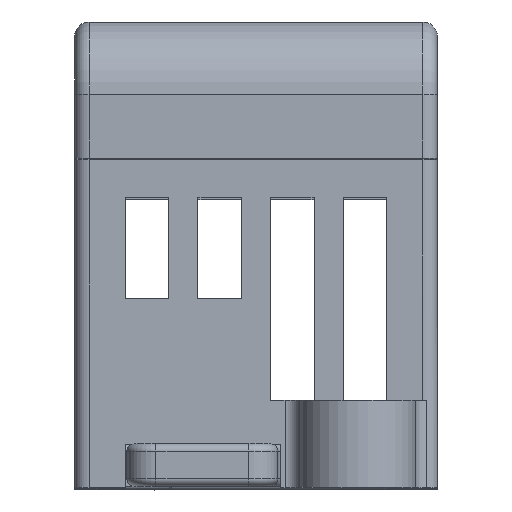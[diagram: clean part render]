
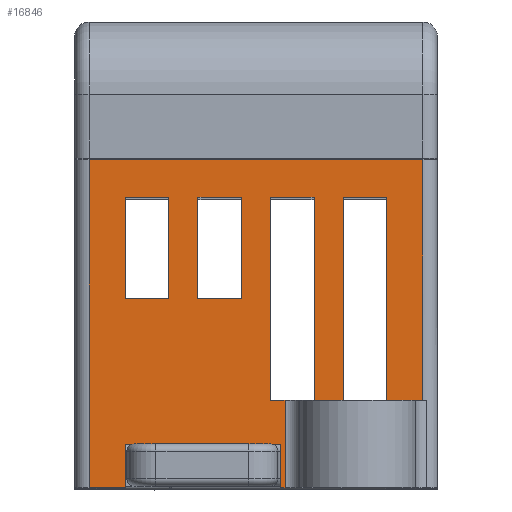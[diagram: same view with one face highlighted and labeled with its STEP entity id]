
A CAD part, top view. The second image highlights one B-rep face of the part: STEP entity #16846.
In plain terms, the highlighted planar face has unit normal (0, 0, 1).
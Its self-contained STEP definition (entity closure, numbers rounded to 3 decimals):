
#8365=DIRECTION('',(1.,0.,0.));
#8366=VECTOR('',#8365,2.5);
#8367=CARTESIAN_POINT('',(-11.5,0.,45.));
#8368=LINE('',#8367,#8366);
#8554=DIRECTION('',(0.,-1.,0.));
#8555=VECTOR('',#8554,14.);
#8556=CARTESIAN_POINT('',(1.,20.,45.));
#8557=LINE('',#8556,#8555);
#8561=DIRECTION('',(1.,0.,0.));
#8562=VECTOR('',#8561,1.);
#8563=CARTESIAN_POINT('',(1.,6.,45.));
#8564=LINE('',#8563,#8562);
#8568=DIRECTION('',(0.,-1.,0.));
#8569=VECTOR('',#8568,6.);
#8570=CARTESIAN_POINT('',(2.,6.,45.));
#8571=LINE('',#8570,#8569);
#8575=DIRECTION('',(-1.,0.,0.));
#8576=VECTOR('',#8575,0.3);
#8577=CARTESIAN_POINT('',(2.,0.,45.));
#8578=LINE('',#8577,#8576);
#8582=DIRECTION('',(1.,0.,0.));
#8583=VECTOR('',#8582,10.7);
#8584=CARTESIAN_POINT('',(-9.,3.,45.));
#8585=LINE('',#8584,#8583);
#8589=DIRECTION('',(0.,1.,0.));
#8590=VECTOR('',#8589,3.);
#8591=CARTESIAN_POINT('',(-9.,0.,45.));
#8592=LINE('',#8591,#8590);
#8596=DIRECTION('',(1.,0.,0.));
#8597=VECTOR('',#8596,23.);
#8598=CARTESIAN_POINT('',(-11.5,22.6,45.));
#8599=LINE('',#8598,#8597);
#8603=DIRECTION('',(0.,1.,0.));
#8604=VECTOR('',#8603,14.);
#8605=CARTESIAN_POINT('',(9.,6.,45.));
#8606=LINE('',#8605,#8604);
#8610=DIRECTION('',(-1.,0.,0.));
#8611=VECTOR('',#8610,3.);
#8612=CARTESIAN_POINT('',(9.,20.,45.));
#8613=LINE('',#8612,#8611);
#8617=DIRECTION('',(0.,-1.,0.));
#8618=VECTOR('',#8617,14.);
#8619=CARTESIAN_POINT('',(6.,20.,45.));
#8620=LINE('',#8619,#8618);
#8624=DIRECTION('',(0.,1.,0.));
#8625=VECTOR('',#8624,14.);
#8626=CARTESIAN_POINT('',(4.,6.,45.));
#8627=LINE('',#8626,#8625);
#8631=DIRECTION('',(-1.,0.,0.));
#8632=VECTOR('',#8631,3.);
#8633=CARTESIAN_POINT('',(4.,20.,45.));
#8634=LINE('',#8633,#8632);
#8638=DIRECTION('',(-1.,0.,0.));
#8639=VECTOR('',#8638,3.);
#8640=CARTESIAN_POINT('',(-1.,20.,45.));
#8641=LINE('',#8640,#8639);
#8645=DIRECTION('',(0.,-1.,0.));
#8646=VECTOR('',#8645,7.);
#8647=CARTESIAN_POINT('',(-4.,20.,45.));
#8648=LINE('',#8647,#8646);
#8652=DIRECTION('',(1.,0.,0.));
#8653=VECTOR('',#8652,3.);
#8654=CARTESIAN_POINT('',(-4.,13.,45.));
#8655=LINE('',#8654,#8653);
#8659=DIRECTION('',(0.,1.,0.));
#8660=VECTOR('',#8659,7.);
#8661=CARTESIAN_POINT('',(-1.,13.,45.));
#8662=LINE('',#8661,#8660);
#8666=DIRECTION('',(-1.,0.,0.));
#8667=VECTOR('',#8666,3.);
#8668=CARTESIAN_POINT('',(-6.,20.,45.));
#8669=LINE('',#8668,#8667);
#8673=DIRECTION('',(0.,-1.,0.));
#8674=VECTOR('',#8673,7.);
#8675=CARTESIAN_POINT('',(-9.,20.,45.));
#8676=LINE('',#8675,#8674);
#8680=DIRECTION('',(1.,0.,0.));
#8681=VECTOR('',#8680,3.);
#8682=CARTESIAN_POINT('',(-9.,13.,45.));
#8683=LINE('',#8682,#8681);
#8687=DIRECTION('',(0.,1.,0.));
#8688=VECTOR('',#8687,7.);
#8689=CARTESIAN_POINT('',(-6.,13.,45.));
#8690=LINE('',#8689,#8688);
#8811=DIRECTION('',(1.,0.,0.));
#8812=VECTOR('',#8811,2.);
#8813=CARTESIAN_POINT('',(4.,6.,45.));
#8814=LINE('',#8813,#8812);
#8825=DIRECTION('',(1.,0.,0.));
#8826=VECTOR('',#8825,2.5);
#8827=CARTESIAN_POINT('',(9.,6.,45.));
#8828=LINE('',#8827,#8826);
#13522=DIRECTION('',(0.,1.,0.));
#13523=VECTOR('',#13522,3.);
#13524=CARTESIAN_POINT('',(1.7,0.,45.));
#13525=LINE('',#13524,#13523);
#15041=DIRECTION('',(0.,-1.,0.));
#15042=VECTOR('',#15041,16.6);
#15043=CARTESIAN_POINT('',(11.5,22.6,45.));
#15044=LINE('',#15043,#15042);
#15318=DIRECTION('',(0.,-1.,0.));
#15319=VECTOR('',#15318,22.6);
#15320=CARTESIAN_POINT('',(-11.5,22.6,45.));
#15321=LINE('',#15320,#15319);
#15376=CARTESIAN_POINT('',(-11.5,0.,45.));
#15378=VERTEX_POINT('',#15376);
#15396=CARTESIAN_POINT('',(-9.,0.,45.));
#15397=VERTEX_POINT('',#15396);
#15668=CARTESIAN_POINT('',(-11.5,22.6,45.));
#15669=CARTESIAN_POINT('',(11.5,22.6,45.));
#15670=VERTEX_POINT('',#15668);
#15671=VERTEX_POINT('',#15669);
#16167=CARTESIAN_POINT('',(11.5,6.,45.));
#16168=VERTEX_POINT('',#16167);
#16171=CARTESIAN_POINT('',(2.,0.,45.));
#16172=VERTEX_POINT('',#16171);
#16177=CARTESIAN_POINT('',(1.7,0.,45.));
#16178=CARTESIAN_POINT('',(1.7,3.,45.));
#16179=VERTEX_POINT('',#16177);
#16180=VERTEX_POINT('',#16178);
#16181=CARTESIAN_POINT('',(-9.,3.,45.));
#16182=VERTEX_POINT('',#16181);
#16464=CARTESIAN_POINT('',(1.,20.,45.));
#16465=CARTESIAN_POINT('',(1.,6.,45.));
#16466=VERTEX_POINT('',#16464);
#16467=VERTEX_POINT('',#16465);
#16468=CARTESIAN_POINT('',(2.,6.,45.));
#16469=VERTEX_POINT('',#16468);
#16470=CARTESIAN_POINT('',(4.,6.,45.));
#16471=CARTESIAN_POINT('',(4.,20.,45.));
#16472=VERTEX_POINT('',#16470);
#16473=VERTEX_POINT('',#16471);
#16474=CARTESIAN_POINT('',(6.,20.,45.));
#16475=CARTESIAN_POINT('',(6.,6.,45.));
#16476=VERTEX_POINT('',#16474);
#16477=VERTEX_POINT('',#16475);
#16478=CARTESIAN_POINT('',(9.,6.,45.));
#16479=CARTESIAN_POINT('',(9.,20.,45.));
#16480=VERTEX_POINT('',#16478);
#16481=VERTEX_POINT('',#16479);
#16482=CARTESIAN_POINT('',(-1.,20.,45.));
#16483=CARTESIAN_POINT('',(-4.,20.,45.));
#16484=VERTEX_POINT('',#16482);
#16485=VERTEX_POINT('',#16483);
#16486=CARTESIAN_POINT('',(-4.,13.,45.));
#16487=VERTEX_POINT('',#16486);
#16488=CARTESIAN_POINT('',(-1.,13.,45.));
#16489=VERTEX_POINT('',#16488);
#16490=CARTESIAN_POINT('',(-6.,20.,45.));
#16491=CARTESIAN_POINT('',(-9.,20.,45.));
#16492=VERTEX_POINT('',#16490);
#16493=VERTEX_POINT('',#16491);
#16494=CARTESIAN_POINT('',(-9.,13.,45.));
#16495=VERTEX_POINT('',#16494);
#16496=CARTESIAN_POINT('',(-6.,13.,45.));
#16497=VERTEX_POINT('',#16496);
#16786=CARTESIAN_POINT('',(-12.5,0.,45.));
#16787=DIRECTION('',(0.,0.,1.));
#16788=DIRECTION('',(1.,0.,0.));
#16789=AXIS2_PLACEMENT_3D('',#16786,#16787,#16788);
#16790=PLANE('',#16789);
#16792=ORIENTED_EDGE('',*,*,#16791,.T.);
#16794=ORIENTED_EDGE('',*,*,#16793,.T.);
#16796=ORIENTED_EDGE('',*,*,#16795,.T.);
#16797=ORIENTED_EDGE('',*,*,#16703,.T.);
#16799=ORIENTED_EDGE('',*,*,#16798,.T.);
#16801=ORIENTED_EDGE('',*,*,#16800,.F.);
#16802=ORIENTED_EDGE('',*,*,#16775,.F.);
#16803=ORIENTED_EDGE('',*,*,#16617,.F.);
#16805=ORIENTED_EDGE('',*,*,#16804,.F.);
#16807=ORIENTED_EDGE('',*,*,#16806,.T.);
#16809=ORIENTED_EDGE('',*,*,#16808,.T.);
#16811=ORIENTED_EDGE('',*,*,#16810,.F.);
#16813=ORIENTED_EDGE('',*,*,#16812,.T.);
#16815=ORIENTED_EDGE('',*,*,#16814,.T.);
#16817=ORIENTED_EDGE('',*,*,#16816,.T.);
#16819=ORIENTED_EDGE('',*,*,#16818,.F.);
#16821=ORIENTED_EDGE('',*,*,#16820,.T.);
#16823=ORIENTED_EDGE('',*,*,#16822,.T.);
#16824=EDGE_LOOP('',(#16792,#16794,#16796,#16797,#16799,#16801,#16802,#16803,
#16805,#16807,#16809,#16811,#16813,#16815,#16817,#16819,#16821,#16823));
#16825=FACE_OUTER_BOUND('',#16824,.F.);
#16827=ORIENTED_EDGE('',*,*,#16826,.T.);
#16829=ORIENTED_EDGE('',*,*,#16828,.T.);
#16831=ORIENTED_EDGE('',*,*,#16830,.T.);
#16833=ORIENTED_EDGE('',*,*,#16832,.T.);
#16834=EDGE_LOOP('',(#16827,#16829,#16831,#16833));
#16835=FACE_BOUND('',#16834,.F.);
#16837=ORIENTED_EDGE('',*,*,#16836,.T.);
#16839=ORIENTED_EDGE('',*,*,#16838,.T.);
#16841=ORIENTED_EDGE('',*,*,#16840,.T.);
#16843=ORIENTED_EDGE('',*,*,#16842,.T.);
#16844=EDGE_LOOP('',(#16837,#16839,#16841,#16843));
#16845=FACE_BOUND('',#16844,.F.);
#16846=ADVANCED_FACE('',(#16825,#16835,#16845),#16790,.T.);
#16617=EDGE_CURVE('',#15378,#15397,#8368,.T.);
#16703=EDGE_CURVE('',#16172,#16179,#8578,.T.);
#16775=EDGE_CURVE('',#15397,#16182,#8592,.T.);
#16791=EDGE_CURVE('',#16466,#16467,#8557,.T.);
#16793=EDGE_CURVE('',#16467,#16469,#8564,.T.);
#16795=EDGE_CURVE('',#16469,#16172,#8571,.T.);
#16798=EDGE_CURVE('',#16179,#16180,#13525,.T.);
#16800=EDGE_CURVE('',#16182,#16180,#8585,.T.);
#16804=EDGE_CURVE('',#15670,#15378,#15321,.T.);
#16806=EDGE_CURVE('',#15670,#15671,#8599,.T.);
#16808=EDGE_CURVE('',#15671,#16168,#15044,.T.);
#16810=EDGE_CURVE('',#16480,#16168,#8828,.T.);
#16812=EDGE_CURVE('',#16480,#16481,#8606,.T.);
#16814=EDGE_CURVE('',#16481,#16476,#8613,.T.);
#16816=EDGE_CURVE('',#16476,#16477,#8620,.T.);
#16818=EDGE_CURVE('',#16472,#16477,#8814,.T.);
#16820=EDGE_CURVE('',#16472,#16473,#8627,.T.);
#16822=EDGE_CURVE('',#16473,#16466,#8634,.T.);
#16826=EDGE_CURVE('',#16484,#16485,#8641,.T.);
#16828=EDGE_CURVE('',#16485,#16487,#8648,.T.);
#16830=EDGE_CURVE('',#16487,#16489,#8655,.T.);
#16832=EDGE_CURVE('',#16489,#16484,#8662,.T.);
#16836=EDGE_CURVE('',#16492,#16493,#8669,.T.);
#16838=EDGE_CURVE('',#16493,#16495,#8676,.T.);
#16840=EDGE_CURVE('',#16495,#16497,#8683,.T.);
#16842=EDGE_CURVE('',#16497,#16492,#8690,.T.);
